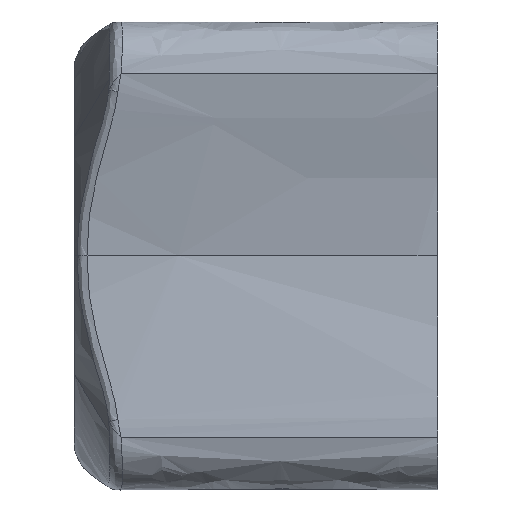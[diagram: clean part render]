
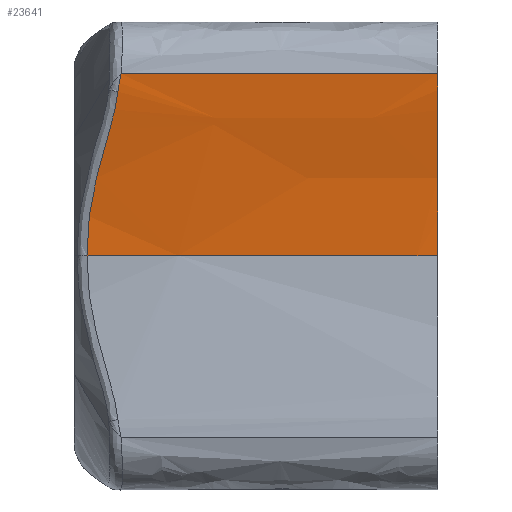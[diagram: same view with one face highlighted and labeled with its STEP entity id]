
A CAD part, top view. The second image highlights one B-rep face of the part: STEP entity #23641.
In plain terms, the highlighted free-form (B-spline) face has degree [5, 1] with [15, 2] control points.
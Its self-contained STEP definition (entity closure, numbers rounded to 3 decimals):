
#67=(
BOUNDED_CURVE()
B_SPLINE_CURVE(5,(#76585,#76586,#76587,#76588,#76589,#76590,#76591),
 .UNSPECIFIED.,.F.,.F.)
B_SPLINE_CURVE_WITH_KNOTS((6,1,6),(-0.136,-0.1,0.),
 .UNSPECIFIED.)
CURVE()
GEOMETRIC_REPRESENTATION_ITEM()
RATIONAL_B_SPLINE_CURVE((1.,1.,1.,1.,1.,1.,1.))
REPRESENTATION_ITEM('')
);
#68=(
BOUNDED_CURVE()
B_SPLINE_CURVE(5,(#76593,#76594,#76595,#76596,#76597,#76598,#76599,#76600,
#76601),.UNSPECIFIED.,.F.,.F.)
B_SPLINE_CURVE_WITH_KNOTS((6,1,1,1,6),(-0.5,-0.4,-0.3,-0.2,-0.136),
 .UNSPECIFIED.)
CURVE()
GEOMETRIC_REPRESENTATION_ITEM()
RATIONAL_B_SPLINE_CURVE((1.,1.,1.,1.,1.,1.,1.,1.,1.))
REPRESENTATION_ITEM('')
);
#124=(
BOUNDED_SURFACE()
B_SPLINE_SURFACE(5,1,((#78860,#78861),(#78862,#78863),(#78864,#78865),(#78866,
#78867),(#78868,#78869),(#78870,#78871),(#78872,#78873),(#78874,#78875),
(#78876,#78877),(#78878,#78879),(#78880,#78881),(#78882,#78883),(#78884,
#78885),(#78886,#78887),(#78888,#78889)),.UNSPECIFIED.,.F.,.F.,.F.)
B_SPLINE_SURFACE_WITH_KNOTS((6,1,1,1,1,1,1,1,1,1,6),(2,2),(-1.,-0.9,-0.8,
-0.7,-0.6,-0.5,-0.4,-0.3,-0.2,-0.1,0.),(0.,48.26),.UNSPECIFIED.)
GEOMETRIC_REPRESENTATION_ITEM()
RATIONAL_B_SPLINE_SURFACE(((1.,1.),(1.,1.),(1.,1.),(1.,1.),(1.,1.),(1.,
1.),(1.,1.),(1.,1.),(1.,1.),(1.,1.),(1.,1.),(1.,1.),(1.,1.),(1.,1.),(1.,
1.)))
REPRESENTATION_ITEM('')
SURFACE()
);
#2521=B_SPLINE_CURVE_WITH_KNOTS('',3,(#78891,#78892,#78893,#78894,#78895,
#78896),.UNSPECIFIED.,.F.,.F.,(4,2,4),(0.,0.31,
0.814),.UNSPECIFIED.);
#2522=B_SPLINE_CURVE_WITH_KNOTS('',3,(#78898,#78899,#78900,#78901,#78902,
#78903,#78904,#78905,#78906,#78907,#78908,#78909,#78910,#78911,#78912,#78913,
#78914,#78915,#78916),.UNSPECIFIED.,.F.,.F.,(4,1,1,2,1,1,2,2,1,1,1,2,4),
(0.,0.783,1.566,3.131,3.717,
4.303,5.474,6.099,6.305,6.51,
6.921,7.742,8.356),.UNSPECIFIED.);
#2523=B_SPLINE_CURVE_WITH_KNOTS('',3,(#78918,#78919,#78920,#78921),
 .UNSPECIFIED.,.F.,.F.,(4,4),(-17.156,-12.7),.UNSPECIFIED.);
#2524=B_SPLINE_CURVE_WITH_KNOTS('',3,(#78923,#78924,#78925,#78926,#78927,
#78928),.UNSPECIFIED.,.F.,.F.,(4,2,4),(-12.7,-8.731,-1.016),
 .UNSPECIFIED.);
#2525=B_SPLINE_CURVE_WITH_KNOTS('',3,(#78929,#78930,#78931,#78932),
 .UNSPECIFIED.,.F.,.F.,(4,4),(-1.016,0.),.UNSPECIFIED.);
#4064=LINE('',#78063,#5227);
#5227=VECTOR('',#29105,0.394);
#6849=FACE_OUTER_BOUND('',#8419,.T.);
#8419=EDGE_LOOP('',(#21820,#21821,#21822,#21823,#21824,#21825,#21826,#21827));
#11367=VERTEX_POINT('',#76558);
#11368=VERTEX_POINT('',#76584);
#11369=VERTEX_POINT('',#76592);
#11403=VERTEX_POINT('',#78029);
#11421=VERTEX_POINT('',#78890);
#11422=VERTEX_POINT('',#78897);
#11423=VERTEX_POINT('',#78917);
#11424=VERTEX_POINT('',#78922);
#14839=EDGE_CURVE('',#11368,#11367,#67,.T.);
#14840=EDGE_CURVE('',#11369,#11368,#68,.T.);
#14903=EDGE_CURVE('',#11367,#11403,#4064,.T.);
#14925=EDGE_CURVE('',#11403,#11421,#2521,.T.);
#14926=EDGE_CURVE('',#11421,#11422,#2522,.T.);
#14927=EDGE_CURVE('',#11422,#11423,#2523,.T.);
#14928=EDGE_CURVE('',#11423,#11424,#2524,.T.);
#14929=EDGE_CURVE('',#11424,#11369,#2525,.T.);
#21820=ORIENTED_EDGE('',*,*,#14903,.T.);
#21821=ORIENTED_EDGE('',*,*,#14925,.T.);
#21822=ORIENTED_EDGE('',*,*,#14926,.T.);
#21823=ORIENTED_EDGE('',*,*,#14927,.T.);
#21824=ORIENTED_EDGE('',*,*,#14928,.T.);
#21825=ORIENTED_EDGE('',*,*,#14929,.T.);
#21826=ORIENTED_EDGE('',*,*,#14840,.T.);
#21827=ORIENTED_EDGE('',*,*,#14839,.T.);
#23641=ADVANCED_FACE('',(#6849),#124,.T.);
#29105=DIRECTION('',(-1.,0.,0.));
#76558=CARTESIAN_POINT('',(7.,3.5,4.5));
#76584=CARTESIAN_POINT('',(7.,2.8,4.413));
#76585=CARTESIAN_POINT('Ctrl Pts',(7.,2.8,4.413));
#76586=CARTESIAN_POINT('Ctrl Pts',(7.,2.845,4.422));
#76587=CARTESIAN_POINT('Ctrl Pts',(7.,3.011,4.453));
#76588=CARTESIAN_POINT('Ctrl Pts',(7.,3.163,4.477));
#76589=CARTESIAN_POINT('Ctrl Pts',(7.,3.3,4.493));
#76590=CARTESIAN_POINT('Ctrl Pts',(7.,3.42,4.5));
#76591=CARTESIAN_POINT('Ctrl Pts',(7.,3.5,4.5));
#76592=CARTESIAN_POINT('',(7.,0.,4.));
#76593=CARTESIAN_POINT('Ctrl Pts',(7.,0.,4.));
#76594=CARTESIAN_POINT('Ctrl Pts',(7.,0.162,4.));
#76595=CARTESIAN_POINT('Ctrl Pts',(7.,0.49,4.01));
#76596=CARTESIAN_POINT('Ctrl Pts',(7.,0.987,4.055));
#76597=CARTESIAN_POINT('Ctrl Pts',(7.,1.585,4.155));
#76598=CARTESIAN_POINT('Ctrl Pts',(7.,2.144,4.276));
#76599=CARTESIAN_POINT('Ctrl Pts',(7.,2.511,4.356));
#76600=CARTESIAN_POINT('Ctrl Pts',(7.,2.721,4.398));
#76601=CARTESIAN_POINT('Ctrl Pts',(7.,2.8,4.413));
#78029=CARTESIAN_POINT('',(0.903,3.5,4.5));
#78063=CARTESIAN_POINT('',(7.,3.5,4.5));
#78860=CARTESIAN_POINT('Ctrl Pts',(7.,-3.5,4.5));
#78861=CARTESIAN_POINT('Ctrl Pts',(-12.,-3.5,4.5));
#78862=CARTESIAN_POINT('Ctrl Pts',(7.,-3.381,4.5));
#78863=CARTESIAN_POINT('Ctrl Pts',(-12.,-3.381,4.5));
#78864=CARTESIAN_POINT('Ctrl Pts',(7.,-3.139,4.49));
#78865=CARTESIAN_POINT('Ctrl Pts',(-12.,-3.139,4.49));
#78866=CARTESIAN_POINT('Ctrl Pts',(7.,-2.766,4.445));
#78867=CARTESIAN_POINT('Ctrl Pts',(-12.,-2.766,4.445));
#78868=CARTESIAN_POINT('Ctrl Pts',(7.,-2.247,4.334));
#78869=CARTESIAN_POINT('Ctrl Pts',(-12.,-2.247,4.334));
#78870=CARTESIAN_POINT('Ctrl Pts',(7.,-1.552,4.166));
#78871=CARTESIAN_POINT('Ctrl Pts',(-12.,-1.552,4.166));
#78872=CARTESIAN_POINT('Ctrl Pts',(7.,-0.805,4.028));
#78873=CARTESIAN_POINT('Ctrl Pts',(-12.,-0.805,4.028));
#78874=CARTESIAN_POINT('Ctrl Pts',(7.,-0.008,3.973));
#78875=CARTESIAN_POINT('Ctrl Pts',(-12.,-0.008,3.973));
#78876=CARTESIAN_POINT('Ctrl Pts',(7.,0.822,4.028));
#78877=CARTESIAN_POINT('Ctrl Pts',(-12.,0.822,4.028));
#78878=CARTESIAN_POINT('Ctrl Pts',(7.,1.645,4.166));
#78879=CARTESIAN_POINT('Ctrl Pts',(-12.,1.645,4.166));
#78880=CARTESIAN_POINT('Ctrl Pts',(7.,2.408,4.334));
#78881=CARTESIAN_POINT('Ctrl Pts',(-12.,2.408,4.334));
#78882=CARTESIAN_POINT('Ctrl Pts',(7.,2.926,4.445));
#78883=CARTESIAN_POINT('Ctrl Pts',(-12.,2.926,4.445));
#78884=CARTESIAN_POINT('Ctrl Pts',(7.,3.243,4.49));
#78885=CARTESIAN_POINT('Ctrl Pts',(-12.,3.243,4.49));
#78886=CARTESIAN_POINT('Ctrl Pts',(7.,3.42,4.5));
#78887=CARTESIAN_POINT('Ctrl Pts',(-12.,3.42,4.5));
#78888=CARTESIAN_POINT('Ctrl Pts',(7.,3.5,4.5));
#78889=CARTESIAN_POINT('Ctrl Pts',(-12.,3.5,4.5));
#78890=CARTESIAN_POINT('',(0.841,3.157,4.473));
#78891=CARTESIAN_POINT('Ctrl Pts',(0.903,3.5,4.5));
#78892=CARTESIAN_POINT('Ctrl Pts',(0.892,3.455,4.5));
#78893=CARTESIAN_POINT('Ctrl Pts',(0.882,3.411,4.498));
#78894=CARTESIAN_POINT('Ctrl Pts',(0.861,3.296,4.49));
#78895=CARTESIAN_POINT('Ctrl Pts',(0.85,3.226,4.482));
#78896=CARTESIAN_POINT('Ctrl Pts',(0.841,3.157,4.473));
#78897=CARTESIAN_POINT('',(0.246,0.,4.));
#78898=CARTESIAN_POINT('Ctrl Pts',(0.841,3.157,4.473));
#78899=CARTESIAN_POINT('Ctrl Pts',(0.828,3.051,4.459));
#78900=CARTESIAN_POINT('Ctrl Pts',(0.793,2.846,4.423));
#78901=CARTESIAN_POINT('Ctrl Pts',(0.697,2.449,4.343));
#78902=CARTESIAN_POINT('Ctrl Pts',(0.6,2.163,4.28));
#78903=CARTESIAN_POINT('Ctrl Pts',(0.526,1.898,4.226));
#78904=CARTESIAN_POINT('Ctrl Pts',(0.488,1.753,4.196));
#78905=CARTESIAN_POINT('Ctrl Pts',(0.419,1.462,4.141));
#78906=CARTESIAN_POINT('Ctrl Pts',(0.373,1.243,4.105));
#78907=CARTESIAN_POINT('Ctrl Pts',(0.329,1.018,4.072));
#78908=CARTESIAN_POINT('Ctrl Pts',(0.315,0.939,4.062));
#78909=CARTESIAN_POINT('Ctrl Pts',(0.299,0.834,
4.05));
#78910=CARTESIAN_POINT('Ctrl Pts',(0.292,0.783,
4.044));
#78911=CARTESIAN_POINT('Ctrl Pts',(0.279,0.679,
4.033));
#78912=CARTESIAN_POINT('Ctrl Pts',(0.26,0.496,
4.017));
#78913=CARTESIAN_POINT('Ctrl Pts',(0.251,0.339,
4.008));
#78914=CARTESIAN_POINT('Ctrl Pts',(0.247,0.156,
4.001));
#78915=CARTESIAN_POINT('Ctrl Pts',(0.246,0.078,
4.));
#78916=CARTESIAN_POINT('Ctrl Pts',(0.246,0.,
4.));
#78917=CARTESIAN_POINT('',(2.,0.,4.));
#78918=CARTESIAN_POINT('Ctrl Pts',(0.246,0.,
4.));
#78919=CARTESIAN_POINT('Ctrl Pts',(0.83,0.,
4.));
#78920=CARTESIAN_POINT('Ctrl Pts',(1.415,0.,
4.));
#78921=CARTESIAN_POINT('Ctrl Pts',(2.,0.,4.));
#78922=CARTESIAN_POINT('',(6.6,0.,4.));
#78923=CARTESIAN_POINT('Ctrl Pts',(2.,0.,4.));
#78924=CARTESIAN_POINT('Ctrl Pts',(2.521,0.,
4.));
#78925=CARTESIAN_POINT('Ctrl Pts',(3.042,0.,
4.));
#78926=CARTESIAN_POINT('Ctrl Pts',(4.575,0.,
4.));
#78927=CARTESIAN_POINT('Ctrl Pts',(5.587,0.,
4.));
#78928=CARTESIAN_POINT('Ctrl Pts',(6.6,0.,4.));
#78929=CARTESIAN_POINT('Ctrl Pts',(6.6,0.,4.));
#78930=CARTESIAN_POINT('Ctrl Pts',(6.733,0.,
4.));
#78931=CARTESIAN_POINT('Ctrl Pts',(6.867,0.,
4.));
#78932=CARTESIAN_POINT('Ctrl Pts',(7.,0.,4.));
